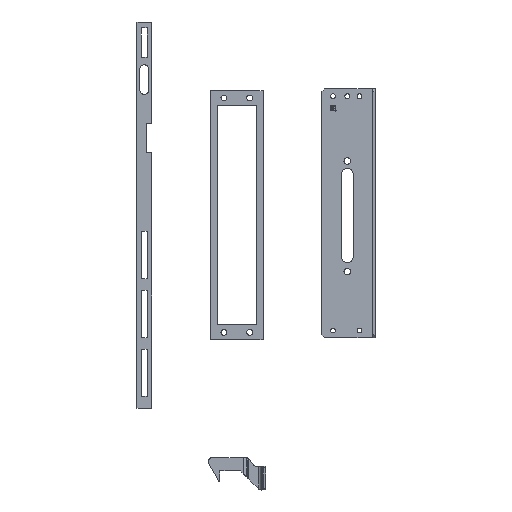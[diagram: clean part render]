
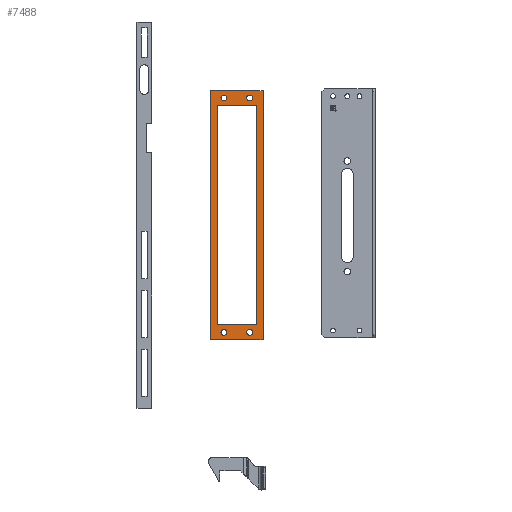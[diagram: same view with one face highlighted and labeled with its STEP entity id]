
A CAD part, top view. The second image highlights one B-rep face of the part: STEP entity #7488.
In plain terms, the highlighted planar face has unit normal (0, 0, 1).
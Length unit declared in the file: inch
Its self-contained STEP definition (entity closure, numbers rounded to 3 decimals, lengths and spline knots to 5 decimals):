
#43 = ORIENTED_EDGE ( 'NONE', *, *, #7079, .T. ) ;
#152 = ORIENTED_EDGE ( 'NONE', *, *, #7075, .F. ) ;
#202 = ORIENTED_EDGE ( 'NONE', *, *, #7090, .F. ) ;
#204 = ORIENTED_EDGE ( 'NONE', *, *, #7041, .T. ) ;
#237 = ORIENTED_EDGE ( 'NONE', *, *, #7033, .F. ) ;
#241 = CIRCLE ( 'NONE', #2388, 0.125 ) ;
#246 = ORIENTED_EDGE ( 'NONE', *, *, #7083, .F. ) ;
#251 = CIRCLE ( 'NONE', #2408, 0.125 ) ;
#325 = ORIENTED_EDGE ( 'NONE', *, *, #7065, .F. ) ;
#412 = EDGE_LOOP ( 'NONE', ( #325, #1147 ) ) ;
#547 = EDGE_LOOP ( 'NONE', ( #1260, #246, #202, #931 ) ) ;
#552 = CIRCLE ( 'NONE', #2400, 0.125 ) ;
#561 = CIRCLE ( 'NONE', #2411, 0.125 ) ;
#608 = VECTOR ( 'NONE', #6059, 39.37008 ) ;
#721 = ORIENTED_EDGE ( 'NONE', *, *, #7077, .F. ) ;
#723 = LINE ( 'NONE', #6052, #810 ) ;
#740 = ORIENTED_EDGE ( 'NONE', *, *, #7078, .T. ) ;
#775 = CIRCLE ( 'NONE', #2404, 0.125 ) ;
#800 = VECTOR ( 'NONE', #6167, 39.37008 ) ;
#810 = VECTOR ( 'NONE', #5965, 39.37008 ) ;
#848 = LINE ( 'NONE', #6205, #608 ) ;
#915 = VECTOR ( 'NONE', #5590, 39.37008 ) ;
#916 = LINE ( 'NONE', #5962, #915 ) ;
#920 = LINE ( 'NONE', #5816, #928 ) ;
#928 = VECTOR ( 'NONE', #5617, 39.37008 ) ;
#931 = ORIENTED_EDGE ( 'NONE', *, *, #7087, .F. ) ;
#935 = VECTOR ( 'NONE', #5993, 39.37008 ) ;
#941 = LINE ( 'NONE', #5992, #935 ) ;
#948 = LINE ( 'NONE', #5720, #951 ) ;
#951 = VECTOR ( 'NONE', #5942, 39.37008 ) ;
#954 = CIRCLE ( 'NONE', #2397, 0.125 ) ;
#962 = CIRCLE ( 'NONE', #2393, 0.125 ) ;
#984 = LINE ( 'NONE', #5638, #800 ) ;
#1023 = LINE ( 'NONE', #5843, #1064 ) ;
#1064 = VECTOR ( 'NONE', #5696, 39.37008 ) ;
#1131 = CIRCLE ( 'NONE', #2461, 0.125 ) ;
#1134 = EDGE_LOOP ( 'NONE', ( #1282, #43, #740, #204 ) ) ;
#1140 = EDGE_LOOP ( 'NONE', ( #1189, #237 ) ) ;
#1147 = ORIENTED_EDGE ( 'NONE', *, *, #7091, .F. ) ;
#1189 = ORIENTED_EDGE ( 'NONE', *, *, #7053, .F. ) ;
#1201 = ORIENTED_EDGE ( 'NONE', *, *, #7031, .F. ) ;
#1220 = ORIENTED_EDGE ( 'NONE', *, *, #7093, .F. ) ;
#1244 = EDGE_LOOP ( 'NONE', ( #152, #721 ) ) ;
#1255 = EDGE_LOOP ( 'NONE', ( #1201, #1220 ) ) ;
#1260 = ORIENTED_EDGE ( 'NONE', *, *, #7080, .F. ) ;
#1282 = ORIENTED_EDGE ( 'NONE', *, *, #7074, .T. ) ;
#1390 = VERTEX_POINT ( 'NONE', #2053 ) ;
#1447 = CARTESIAN_POINT ( 'NONE',  ( -0.673, -4.968, 0.125 ) ) ;
#1466 = VERTEX_POINT ( 'NONE', #1821 ) ;
#1489 = VERTEX_POINT ( 'NONE', #1688 ) ;
#1500 = CARTESIAN_POINT ( 'NONE',  ( 1.11, -5.28, 0.125 ) ) ;
#1549 = VERTEX_POINT ( 'NONE', #1645 ) ;
#1613 = VERTEX_POINT ( 'NONE', #1500 ) ;
#1616 = VERTEX_POINT ( 'NONE', #2247 ) ;
#1617 = VERTEX_POINT ( 'NONE', #2091 ) ;
#1618 = VERTEX_POINT ( 'NONE', #2071 ) ;
#1636 = VERTEX_POINT ( 'NONE', #1940 ) ;
#1645 = CARTESIAN_POINT ( 'NONE',  ( 0.423, -4.968, 0.125 ) ) ;
#1688 = CARTESIAN_POINT ( 'NONE',  ( 0.673, 4.97, 0.125 ) ) ;
#1817 = CARTESIAN_POINT ( 'NONE',  ( 0.829, 4.656, 0.125 ) ) ;
#1821 = CARTESIAN_POINT ( 'NONE',  ( 0.673, -4.968, 0.125 ) ) ;
#1852 = VERTEX_POINT ( 'NONE', #2202 ) ;
#1873 = CARTESIAN_POINT ( 'NONE',  ( -0.423, -4.968, 0.125 ) ) ;
#1894 = VERTEX_POINT ( 'NONE', #2003 ) ;
#1940 = CARTESIAN_POINT ( 'NONE',  ( -1.11, -5.28, 0.125 ) ) ;
#1975 = CARTESIAN_POINT ( 'NONE',  ( 0.829, -4.656, 0.125 ) ) ;
#2003 = CARTESIAN_POINT ( 'NONE',  ( -0.673, 4.97, 0.125 ) ) ;
#2044 = CARTESIAN_POINT ( 'NONE',  ( -0.829, -4.656, 0.125 ) ) ;
#2053 = CARTESIAN_POINT ( 'NONE',  ( 0.423, 4.97, 0.125 ) ) ;
#2071 = CARTESIAN_POINT ( 'NONE',  ( -0.829, 4.656, 0.125 ) ) ;
#2091 = CARTESIAN_POINT ( 'NONE',  ( -1.11, 5.28, 0.125 ) ) ;
#2136 = VERTEX_POINT ( 'NONE', #1447 ) ;
#2143 = VERTEX_POINT ( 'NONE', #1873 ) ;
#2155 = VERTEX_POINT ( 'NONE', #2044 ) ;
#2165 = VERTEX_POINT ( 'NONE', #1975 ) ;
#2195 = VERTEX_POINT ( 'NONE', #1817 ) ;
#2202 = CARTESIAN_POINT ( 'NONE',  ( -0.423, 4.97, 0.125 ) ) ;
#2247 = CARTESIAN_POINT ( 'NONE',  ( 1.11, 5.28, 0.125 ) ) ;
#2388 = AXIS2_PLACEMENT_3D ( 'NONE', #5742, #6109, #6045 ) ;
#2393 = AXIS2_PLACEMENT_3D ( 'NONE', #5947, #6208, #6090 ) ;
#2397 = AXIS2_PLACEMENT_3D ( 'NONE', #6175, #5941, #6168 ) ;
#2400 = AXIS2_PLACEMENT_3D ( 'NONE', #5850, #5684, #5627 ) ;
#2404 = AXIS2_PLACEMENT_3D ( 'NONE', #5777, #6044, #6053 ) ;
#2408 = AXIS2_PLACEMENT_3D ( 'NONE', #6038, #5771, #6065 ) ;
#2411 = AXIS2_PLACEMENT_3D ( 'NONE', #6144, #6062, #5738 ) ;
#2428 = AXIS2_PLACEMENT_3D ( 'NONE', #3525, #2679, #3034 ) ;
#2461 = AXIS2_PLACEMENT_3D ( 'NONE', #5645, #5882, #5568 ) ;
#2679 = DIRECTION ( 'NONE',  ( 0., 0., 1. ) ) ;
#3034 = DIRECTION ( 'NONE',  ( 1., 0., 0. ) ) ;
#3045 = PLANE ( 'NONE',  #2428 ) ;
#3525 = CARTESIAN_POINT ( 'NONE',  ( -1.11, 5.28, 0.125 ) ) ;
#3689 = FACE_BOUND ( 'NONE', #547, .T. ) ;
#3802 = FACE_OUTER_BOUND ( 'NONE', #1134, .T. ) ;
#3947 = FACE_BOUND ( 'NONE', #1244, .T. ) ;
#3997 = FACE_BOUND ( 'NONE', #1140, .T. ) ;
#4023 = FACE_BOUND ( 'NONE', #412, .T. ) ;
#4266 = FACE_BOUND ( 'NONE', #1255, .T. ) ;
#5568 = DIRECTION ( 'NONE',  ( 1., 0., 0. ) ) ;
#5590 = DIRECTION ( 'NONE',  ( -1., 0., 0. ) ) ;
#5617 = DIRECTION ( 'NONE',  ( 0., -1., 0. ) ) ;
#5627 = DIRECTION ( 'NONE',  ( 1., 0., 0. ) ) ;
#5638 = CARTESIAN_POINT ( 'NONE',  ( 1.11, 5.28, 0.125 ) ) ;
#5645 = CARTESIAN_POINT ( 'NONE',  ( -0.548, 4.97, 0.125 ) ) ;
#5684 = DIRECTION ( 'NONE',  ( 0., 0., 1. ) ) ;
#5696 = DIRECTION ( 'NONE',  ( -1., 0., 0. ) ) ;
#5720 = CARTESIAN_POINT ( 'NONE',  ( -0.829, -4.656, 0.125 ) ) ;
#5738 = DIRECTION ( 'NONE',  ( 1., 0., 0. ) ) ;
#5742 = CARTESIAN_POINT ( 'NONE',  ( 0.548, -4.968, 0.125 ) ) ;
#5771 = DIRECTION ( 'NONE',  ( 0., 0., 1. ) ) ;
#5777 = CARTESIAN_POINT ( 'NONE',  ( 0.548, 4.97, 0.125 ) ) ;
#5816 = CARTESIAN_POINT ( 'NONE',  ( -0.829, 4.656, 0.125 ) ) ;
#5843 = CARTESIAN_POINT ( 'NONE',  ( -1.11, 5.28, 0.125 ) ) ;
#5850 = CARTESIAN_POINT ( 'NONE',  ( -0.548, 4.97, 0.125 ) ) ;
#5882 = DIRECTION ( 'NONE',  ( 0., 0., 1. ) ) ;
#5941 = DIRECTION ( 'NONE',  ( 0., 0., 1. ) ) ;
#5942 = DIRECTION ( 'NONE',  ( 1., 0., 0. ) ) ;
#5947 = CARTESIAN_POINT ( 'NONE',  ( -0.548, -4.968, 0.125 ) ) ;
#5962 = CARTESIAN_POINT ( 'NONE',  ( -0.829, 4.656, 0.125 ) ) ;
#5965 = DIRECTION ( 'NONE',  ( 0., -1., 0. ) ) ;
#5992 = CARTESIAN_POINT ( 'NONE',  ( -1.11, -5.28, 0.125 ) ) ;
#5993 = DIRECTION ( 'NONE',  ( 1., 0., 0. ) ) ;
#6038 = CARTESIAN_POINT ( 'NONE',  ( 0.548, 4.97, 0.125 ) ) ;
#6044 = DIRECTION ( 'NONE',  ( 0., 0., 1. ) ) ;
#6045 = DIRECTION ( 'NONE',  ( 1., 0., 0. ) ) ;
#6052 = CARTESIAN_POINT ( 'NONE',  ( -1.11, 5.28, 0.125 ) ) ;
#6053 = DIRECTION ( 'NONE',  ( 1., 0., 0. ) ) ;
#6059 = DIRECTION ( 'NONE',  ( 0., 1., 0. ) ) ;
#6062 = DIRECTION ( 'NONE',  ( 0., 0., 1. ) ) ;
#6065 = DIRECTION ( 'NONE',  ( 1., 0., 0. ) ) ;
#6090 = DIRECTION ( 'NONE',  ( 1., 0., 0. ) ) ;
#6109 = DIRECTION ( 'NONE',  ( 0., 0., 1. ) ) ;
#6144 = CARTESIAN_POINT ( 'NONE',  ( -0.548, -4.968, 0.125 ) ) ;
#6167 = DIRECTION ( 'NONE',  ( 0., 1., 0. ) ) ;
#6168 = DIRECTION ( 'NONE',  ( 1., 0., 0. ) ) ;
#6175 = CARTESIAN_POINT ( 'NONE',  ( 0.548, -4.968, 0.125 ) ) ;
#6205 = CARTESIAN_POINT ( 'NONE',  ( 0.829, 4.656, 0.125 ) ) ;
#6208 = DIRECTION ( 'NONE',  ( 0., 0., 1. ) ) ;
#7031 = EDGE_CURVE ( 'NONE', #1390, #1489, #775, .T. ) ;
#7033 = EDGE_CURVE ( 'NONE', #2143, #2136, #962, .T. ) ;
#7041 = EDGE_CURVE ( 'NONE', #1616, #1617, #1023, .T. ) ;
#7053 = EDGE_CURVE ( 'NONE', #2136, #2143, #561, .T. ) ;
#7065 = EDGE_CURVE ( 'NONE', #1549, #1466, #954, .T. ) ;
#7074 = EDGE_CURVE ( 'NONE', #1617, #1636, #723, .T. ) ;
#7075 = EDGE_CURVE ( 'NONE', #1894, #1852, #1131, .T. ) ;
#7077 = EDGE_CURVE ( 'NONE', #1852, #1894, #552, .T. ) ;
#7078 = EDGE_CURVE ( 'NONE', #1613, #1616, #984, .T. ) ;
#7079 = EDGE_CURVE ( 'NONE', #1636, #1613, #941, .T. ) ;
#7080 = EDGE_CURVE ( 'NONE', #2155, #2165, #948, .T. ) ;
#7083 = EDGE_CURVE ( 'NONE', #1618, #2155, #920, .T. ) ;
#7087 = EDGE_CURVE ( 'NONE', #2165, #2195, #848, .T. ) ;
#7090 = EDGE_CURVE ( 'NONE', #2195, #1618, #916, .T. ) ;
#7091 = EDGE_CURVE ( 'NONE', #1466, #1549, #241, .T. ) ;
#7093 = EDGE_CURVE ( 'NONE', #1489, #1390, #251, .T. ) ;
#7488 = ADVANCED_FACE ( 'NONE', ( #3997, #3947, #3802, #3689, #4266, #4023 ), #3045, .T. ) ;
